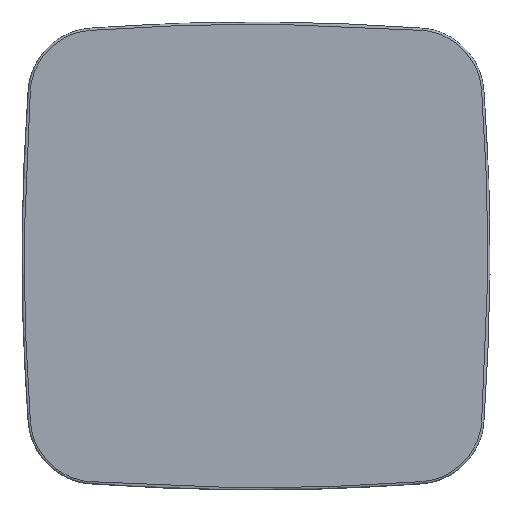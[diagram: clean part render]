
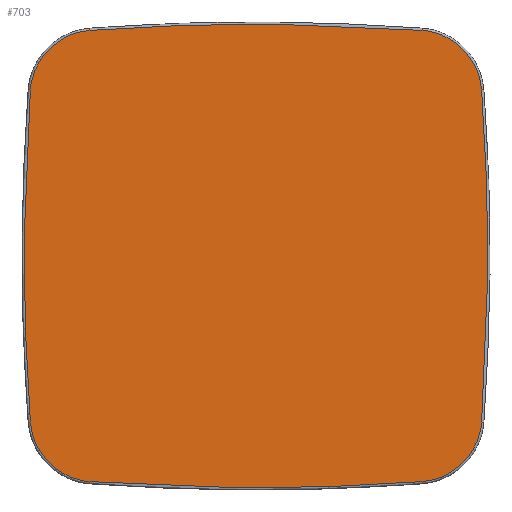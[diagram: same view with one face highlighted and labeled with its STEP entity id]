
A CAD part, top view. The second image highlights one B-rep face of the part: STEP entity #703.
In plain terms, the highlighted planar face has unit normal (0, 0, 1).
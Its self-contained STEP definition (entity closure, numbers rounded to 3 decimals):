
#703=ADVANCED_FACE('',(#909),#3527,.T.);
#909=FACE_OUTER_BOUND('',#1115,.T.);
#1115=EDGE_LOOP('',(#1328,#1329,#1330,#1331,#1332,#1333,#1334,#1335));
#1328=ORIENTED_EDGE('',*,*,#2519,.T.);
#1329=ORIENTED_EDGE('',*,*,#2523,.T.);
#1330=ORIENTED_EDGE('',*,*,#2488,.T.);
#1331=ORIENTED_EDGE('',*,*,#2494,.T.);
#1332=ORIENTED_EDGE('',*,*,#2500,.T.);
#1333=ORIENTED_EDGE('',*,*,#2505,.T.);
#1334=ORIENTED_EDGE('',*,*,#2510,.T.);
#1335=ORIENTED_EDGE('',*,*,#2514,.T.);
#2488=EDGE_CURVE('',#3124,#3125,#3074,.T.);
#2494=EDGE_CURVE('',#3125,#3121,#3080,.T.);
#2500=EDGE_CURVE('',#3121,#3122,#3086,.T.);
#2505=EDGE_CURVE('',#3122,#3123,#3091,.T.);
#2510=EDGE_CURVE('',#3123,#3120,#3096,.T.);
#2514=EDGE_CURVE('',#3120,#3118,#3100,.T.);
#2519=EDGE_CURVE('',#3118,#3119,#3105,.T.);
#2523=EDGE_CURVE('',#3119,#3124,#3109,.T.);
#3074=(
BOUNDED_CURVE()
B_SPLINE_CURVE(2,(#3991,#3992,#3993),.UNSPECIFIED.,.F.,.F.)
B_SPLINE_CURVE_WITH_KNOTS((3,3),(0.,1132.871),.UNSPECIFIED.)
CURVE()
GEOMETRIC_REPRESENTATION_ITEM()
RATIONAL_B_SPLINE_CURVE((1.,0.997,1.))
REPRESENTATION_ITEM('')
);
#3080=(
BOUNDED_CURVE()
B_SPLINE_CURVE(2,(#4009,#4010,#4011),.UNSPECIFIED.,.F.,.F.)
B_SPLINE_CURVE_WITH_KNOTS((3,3),(0.,313.208),.UNSPECIFIED.)
CURVE()
GEOMETRIC_REPRESENTATION_ITEM()
RATIONAL_B_SPLINE_CURVE((1.,0.758,1.))
REPRESENTATION_ITEM('')
);
#3086=(
BOUNDED_CURVE()
B_SPLINE_CURVE(2,(#4027,#4028,#4029),.UNSPECIFIED.,.F.,.F.)
B_SPLINE_CURVE_WITH_KNOTS((3,3),(0.,1132.871),.UNSPECIFIED.)
CURVE()
GEOMETRIC_REPRESENTATION_ITEM()
RATIONAL_B_SPLINE_CURVE((1.,0.997,1.))
REPRESENTATION_ITEM('')
);
#3091=(
BOUNDED_CURVE()
B_SPLINE_CURVE(2,(#4042,#4043,#4044),.UNSPECIFIED.,.F.,.F.)
B_SPLINE_CURVE_WITH_KNOTS((3,3),(0.,313.208),.UNSPECIFIED.)
CURVE()
GEOMETRIC_REPRESENTATION_ITEM()
RATIONAL_B_SPLINE_CURVE((1.,0.758,1.))
REPRESENTATION_ITEM('')
);
#3096=(
BOUNDED_CURVE()
B_SPLINE_CURVE(2,(#4057,#4058,#4059),.UNSPECIFIED.,.F.,.F.)
B_SPLINE_CURVE_WITH_KNOTS((3,3),(0.,1132.871),.UNSPECIFIED.)
CURVE()
GEOMETRIC_REPRESENTATION_ITEM()
RATIONAL_B_SPLINE_CURVE((1.,0.997,1.))
REPRESENTATION_ITEM('')
);
#3100=(
BOUNDED_CURVE()
B_SPLINE_CURVE(2,(#4069,#4070,#4071),.UNSPECIFIED.,.F.,.F.)
B_SPLINE_CURVE_WITH_KNOTS((3,3),(0.,313.208),.UNSPECIFIED.)
CURVE()
GEOMETRIC_REPRESENTATION_ITEM()
RATIONAL_B_SPLINE_CURVE((1.,0.758,1.))
REPRESENTATION_ITEM('')
);
#3105=(
BOUNDED_CURVE()
B_SPLINE_CURVE(2,(#4084,#4085,#4086),.UNSPECIFIED.,.F.,.F.)
B_SPLINE_CURVE_WITH_KNOTS((3,3),(0.,1132.871),.UNSPECIFIED.)
CURVE()
GEOMETRIC_REPRESENTATION_ITEM()
RATIONAL_B_SPLINE_CURVE((1.,0.997,1.))
REPRESENTATION_ITEM('')
);
#3109=(
BOUNDED_CURVE()
B_SPLINE_CURVE(2,(#4096,#4097,#4098),.UNSPECIFIED.,.F.,.F.)
B_SPLINE_CURVE_WITH_KNOTS((3,3),(0.,313.208),.UNSPECIFIED.)
CURVE()
GEOMETRIC_REPRESENTATION_ITEM()
RATIONAL_B_SPLINE_CURVE((1.,0.758,1.))
REPRESENTATION_ITEM('')
);
#3118=VERTEX_POINT('',#3963);
#3119=VERTEX_POINT('',#3964);
#3120=VERTEX_POINT('',#3965);
#3121=VERTEX_POINT('',#3966);
#3122=VERTEX_POINT('',#3967);
#3123=VERTEX_POINT('',#3968);
#3124=VERTEX_POINT('',#3969);
#3125=VERTEX_POINT('',#3970);
#3527=PLANE('',#3677);
#3677=AXIS2_PLACEMENT_3D('',#3810,#3743,$);
#3743=DIRECTION('',(0.,0.,1.));
#3810=CARTESIAN_POINT('',(3991.698,-1136.737,750.065));
#3963=CARTESIAN_POINT('',(4423.296,-908.456,750.065));
#3964=CARTESIAN_POINT('',(5555.1,-908.456,750.065));
#3965=CARTESIAN_POINT('',(4219.979,-705.139,750.065));
#3966=CARTESIAN_POINT('',(5555.1,629.982,750.065));
#3967=CARTESIAN_POINT('',(4423.296,629.982,750.065));
#3968=CARTESIAN_POINT('',(4219.979,426.665,750.065));
#3969=CARTESIAN_POINT('',(5758.417,-705.139,750.065));
#3970=CARTESIAN_POINT('',(5758.417,426.665,750.065));
#3991=CARTESIAN_POINT('',(5758.417,-705.139,750.065));
#3992=CARTESIAN_POINT('',(5801.039,-139.237,750.065));
#3993=CARTESIAN_POINT('',(5758.417,426.665,750.065));
#4009=CARTESIAN_POINT('',(5758.417,426.665,750.065));
#4010=CARTESIAN_POINT('',(5744.176,615.741,750.065));
#4011=CARTESIAN_POINT('',(5555.1,629.982,750.065));
#4027=CARTESIAN_POINT('',(5555.1,629.982,750.065));
#4028=CARTESIAN_POINT('',(4989.198,672.605,750.065));
#4029=CARTESIAN_POINT('',(4423.296,629.982,750.065));
#4042=CARTESIAN_POINT('',(4423.296,629.982,750.065));
#4043=CARTESIAN_POINT('',(4234.22,615.741,750.065));
#4044=CARTESIAN_POINT('',(4219.979,426.665,750.065));
#4057=CARTESIAN_POINT('',(4219.979,426.665,750.065));
#4058=CARTESIAN_POINT('',(4177.357,-139.237,750.065));
#4059=CARTESIAN_POINT('',(4219.979,-705.139,750.065));
#4069=CARTESIAN_POINT('',(4219.979,-705.139,750.065));
#4070=CARTESIAN_POINT('',(4234.22,-894.215,750.065));
#4071=CARTESIAN_POINT('',(4423.296,-908.456,750.065));
#4084=CARTESIAN_POINT('',(4423.296,-908.456,750.065));
#4085=CARTESIAN_POINT('',(4989.198,-951.078,750.065));
#4086=CARTESIAN_POINT('',(5555.1,-908.456,750.065));
#4096=CARTESIAN_POINT('',(5555.1,-908.456,750.065));
#4097=CARTESIAN_POINT('',(5744.176,-894.215,750.065));
#4098=CARTESIAN_POINT('',(5758.417,-705.139,750.065));
